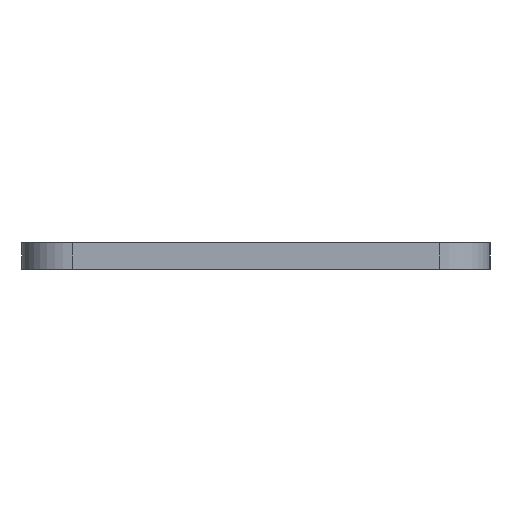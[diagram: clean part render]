
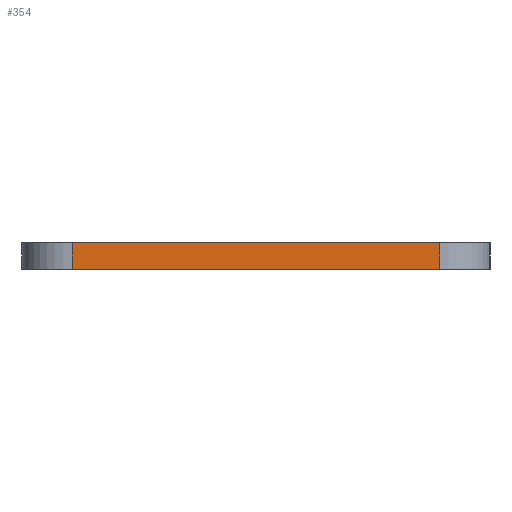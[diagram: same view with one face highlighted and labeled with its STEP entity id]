
A CAD part, left-side view. The second image highlights one B-rep face of the part: STEP entity #354.
In plain terms, the highlighted planar face has unit normal (-1, 0, 0).
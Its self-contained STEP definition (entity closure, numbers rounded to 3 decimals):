
#196=FACE_OUTER_BOUND('',#1306,.T.);
#354=ADVANCED_FACE('',(#196),#477,.T.);
#477=PLANE('',#3462);
#558=LINE('',#4629,#883);
#639=LINE('',#4928,#964);
#770=LINE('',#5258,#1095);
#771=LINE('',#5260,#1096);
#883=VECTOR('',#3657,1.);
#964=VECTOR('',#3876,1.);
#1095=VECTOR('',#4247,1.);
#1096=VECTOR('',#4250,1.);
#1306=EDGE_LOOP('',(#2024,#2025,#2026,#2027));
#2024=ORIENTED_EDGE('',*,*,#3023,.F.);
#2025=ORIENTED_EDGE('',*,*,#2856,.F.);
#2026=ORIENTED_EDGE('',*,*,#3024,.T.);
#2027=ORIENTED_EDGE('',*,*,#2707,.T.);
#2395=VERTEX_POINT('',#4628);
#2396=VERTEX_POINT('',#4630);
#2544=VERTEX_POINT('',#4927);
#2545=VERTEX_POINT('',#4929);
#2707=EDGE_CURVE('',#2396,#2395,#558,.T.);
#2856=EDGE_CURVE('',#2544,#2545,#639,.T.);
#3023=EDGE_CURVE('',#2545,#2395,#770,.T.);
#3024=EDGE_CURVE('',#2544,#2396,#771,.T.);
#3462=AXIS2_PLACEMENT_3D('',#5261,#4251,#4252);
#3657=DIRECTION('',(0.,1.,0.));
#3876=DIRECTION('',(0.,1.,0.));
#4247=DIRECTION('',(0.,0.,1.));
#4250=DIRECTION('',(0.,0.,1.));
#4251=DIRECTION('',(-1.,0.,0.));
#4252=DIRECTION('',(0.,1.,0.));
#4628=CARTESIAN_POINT('',(-185.,11.,3.18));
#4629=CARTESIAN_POINT('',(-185.,-11.,3.18));
#4630=CARTESIAN_POINT('',(-185.,-11.,3.18));
#4927=CARTESIAN_POINT('',(-185.,-11.,1.58));
#4928=CARTESIAN_POINT('',(-185.,-11.,1.58));
#4929=CARTESIAN_POINT('',(-185.,11.,1.58));
#5258=CARTESIAN_POINT('',(-185.,11.,2.38));
#5260=CARTESIAN_POINT('',(-185.,-11.,2.38));
#5261=CARTESIAN_POINT('',(-185.,-11.,0.));
